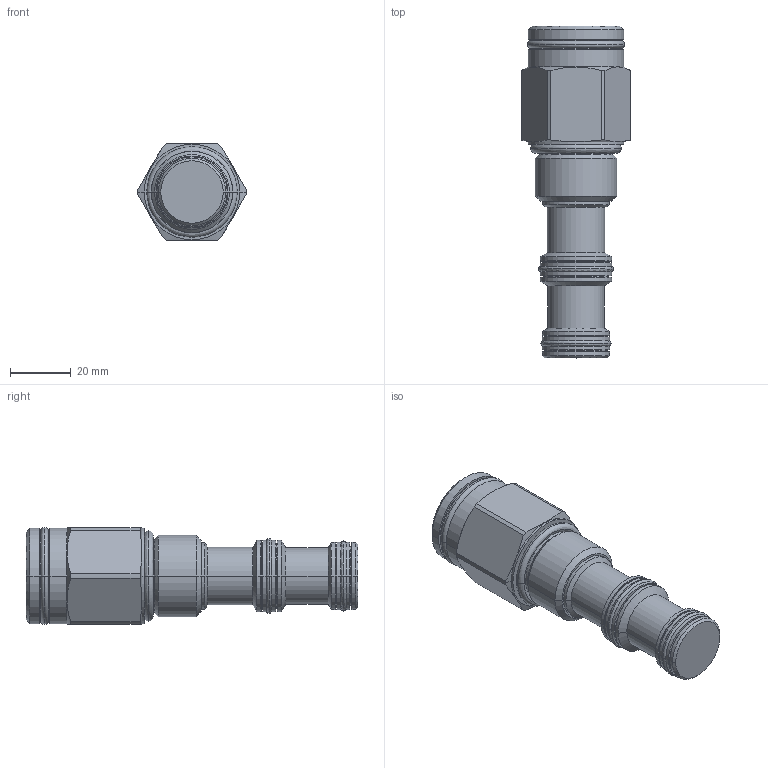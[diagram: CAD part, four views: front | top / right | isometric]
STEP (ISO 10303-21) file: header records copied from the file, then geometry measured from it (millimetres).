
FILE_DESCRIPTION((''),'2;1');
FILE_NAME('5265100_SW0001','2009-02-09T',('jcs'),(''),'PRO/ENGINEER BY PARAMETRIC TECHNOLOGY CORPORATION, 2008010','PRO/ENGINEER BY PARAMETRIC TECHNOLOGY CORPORATION, 2008010','');
FILE_SCHEMA(('CONFIG_CONTROL_DESIGN'));
Length unit declared in the file: inch
Products named in the file (1): 5265100_SW0001
Bounding box: 35.81 x 109.6 x 31.95 mm (x, y, z)
Volume: 59873.2 mm3; surface area: 14521.8 mm2
Topology: 5 solids, 5 shells, 152 faces, 316 edges, 182 vertices
Faces by surface type: cylinder 50, revolution 32, cone 24, plane 24, torus 22
Entity records: 4634 total; most frequent: CARTESIAN_POINT 1300, DIRECTION 736, ORIENTED_EDGE 632, EDGE_CURVE 316, AXIS2_PLACEMENT_3D 312, CIRCLE 192, VERTEX_POINT 182, EDGE_LOOP 168
